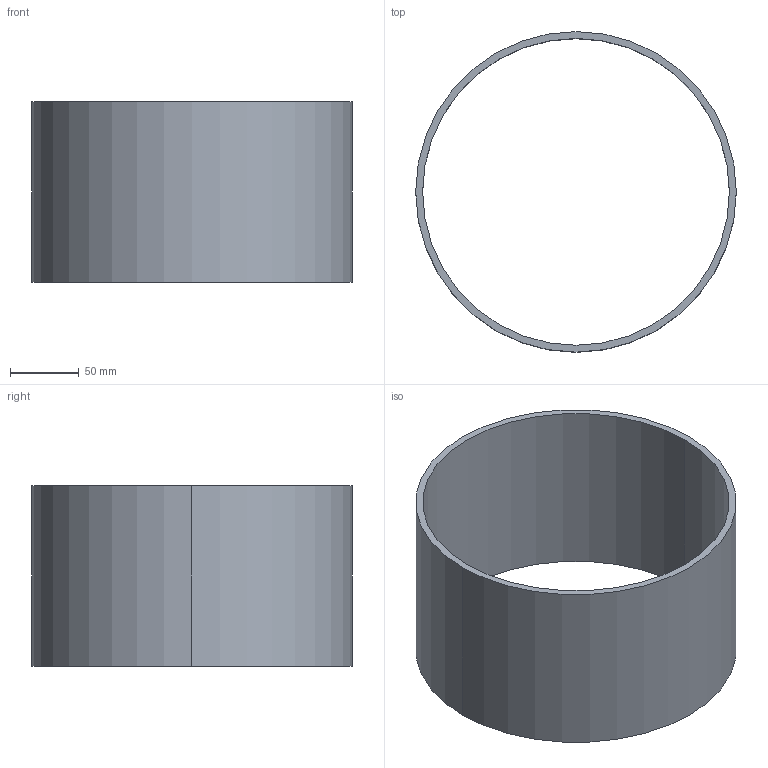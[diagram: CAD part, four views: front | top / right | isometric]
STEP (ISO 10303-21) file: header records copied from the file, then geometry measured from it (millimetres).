
FILE_DESCRIPTION(('CATIA V5 STEP Exchange'),'2;1');
FILE_NAME('C:\_Andres\UNIVERSIDAD\IQS\ASIGNATURAS\DAO\EXF\EXF-15161c\1original\Pañella_Caminero_Ej07-tabla_v17.stp','2016-03-04T21:16:35+00:00',('none'),('none'),'CATIA Version 5 Release 20 SP 1 (IN-10)','CATIA V5 STEP AP203','none');
FILE_SCHEMA(('CONFIG_CONTROL_DESIGN'));
Length unit declared in the file: millimetre
Products named in the file (1): Pañella_Caminero_Ej07-tabla_v17
Bounding box: 234 x 234 x 132 mm (x, y, z)
Volume: 474820.3 mm3; surface area: 197122.4 mm2
Topology: 1 solids, 1 shells, 6 faces, 13 edges, 10 vertices
Faces by surface type: cylinder 4, plane 2
Entity records: 208 total; most frequent: CARTESIAN_POINT 29, ORIENTED_EDGE 24, DIRECTION 23, AXIS2_PLACEMENT_3D 14, EDGE_CURVE 12, CIRCLE 8, EDGE_LOOP 8, VERTEX_POINT 8
